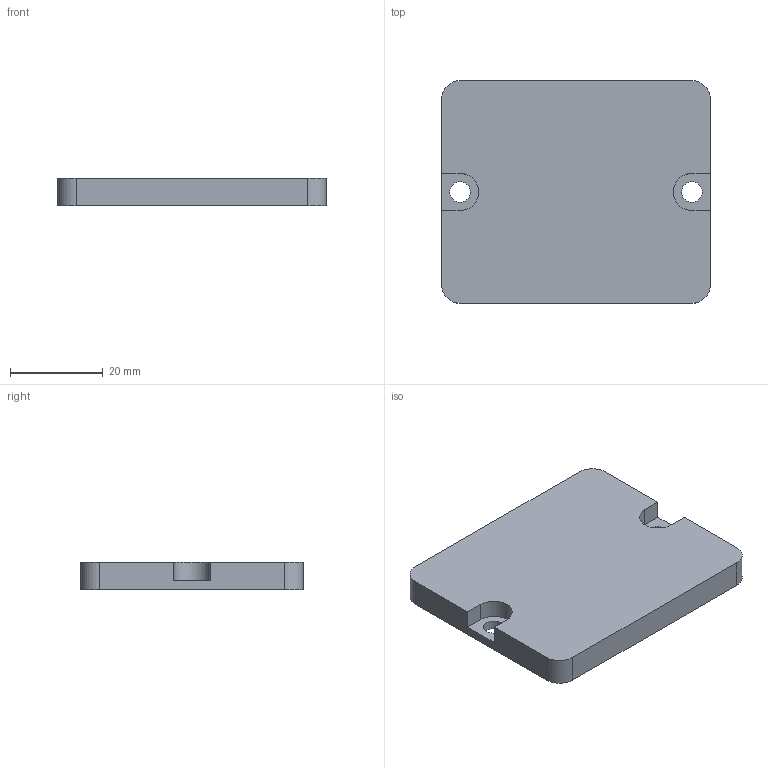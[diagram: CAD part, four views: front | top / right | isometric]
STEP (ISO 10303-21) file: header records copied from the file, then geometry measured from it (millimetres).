
FILE_DESCRIPTION(('STEP AP203'), '1');
FILE_NAME('蚁显1801.01.08.00.003 - 署赅', '', ('UNSPECIFIED'), ('UNSPECIFIED'), 'C3D Converter', 'C3D Toolkit', '');
FILE_SCHEMA(('CONFIG_CONTROL_DESIGN'));
Length unit declared in the file: millimetre
Products named in the file (1): ТППФ1801.01.08.00.003
Bounding box: 58 x 48 x 6 mm (x, y, z)
Volume: 16100.9 mm3; surface area: 6864.8 mm2
Topology: 1 solids, 1 shells, 20 faces, 54 edges, 36 vertices
Faces by surface type: plane 12, cylinder 8
Full cylindrical faces by diameter (mm): 4.5 x2
Entity records: 832 total; most frequent: DIRECTION 110, CARTESIAN_POINT 109, ORIENTED_EDGE 104, EDGE_CURVE 52, AXIS2_PLACEMENT_3D 37, VERTEX_POINT 36, LINE 36, VECTOR 36
